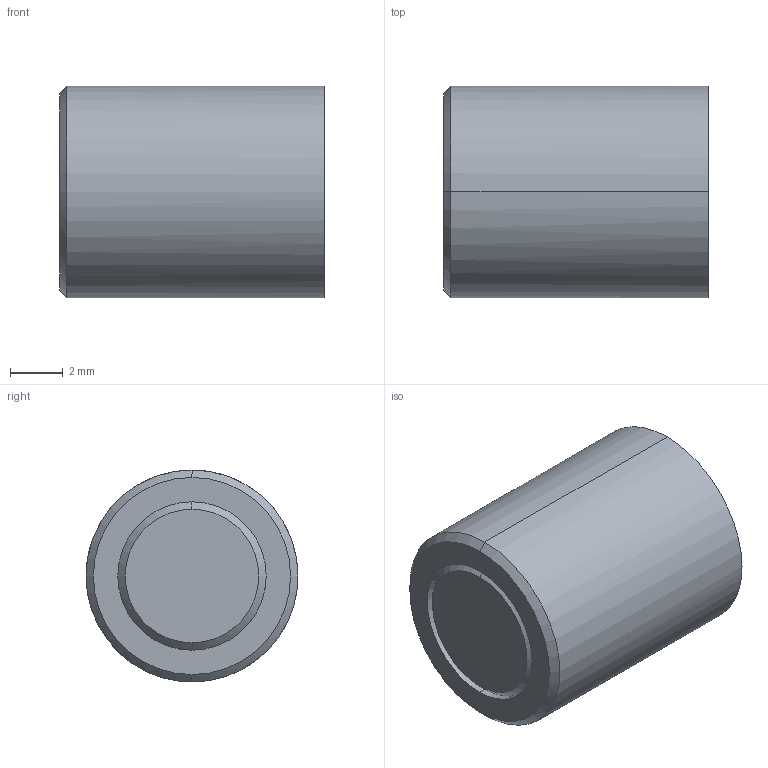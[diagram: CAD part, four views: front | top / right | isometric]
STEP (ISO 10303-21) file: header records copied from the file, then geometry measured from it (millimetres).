
FILE_DESCRIPTION(('CATIA V5 STEP Exchange'),'2;1');
FILE_NAME('C:\Users\Utente\Desktop\IO LAVORO\3D X SITO CF\X SITO\PLASTICA\D375\D375-8-A-DM-FA.stp','2021-03-26T14:49:10+00:00',('none'),('none'),'CATIA Version 5 Release 20 GA (IN-10)','CATIA V5 STEP AP203','none');
FILE_SCHEMA(('CONFIG_CONTROL_DESIGN'));
Length unit declared in the file: millimetre
Products named in the file (1): D375-8-A-DM-FA
Assembly tree (2 placements, depth 2):
  D375-8-A-DM-FA
    #58
    #6408
Bounding box: 10 x 8 x 8 mm (x, y, z)
Volume: 480.4 mm3; surface area: 695.9 mm2
Topology: 2 solids, 2 shells, 216 faces, 594 edges, 408 vertices
Faces by surface type: plane 135, cylinder 77, cone 4
Entity records: 7445 total; most frequent: CARTESIAN_POINT 1960, ORIENTED_EDGE 1188, DIRECTION 960, EDGE_CURVE 594, VERTEX_POINT 408, VECTOR 396, LINE 396, AXIS2_PLACEMENT_3D 345
